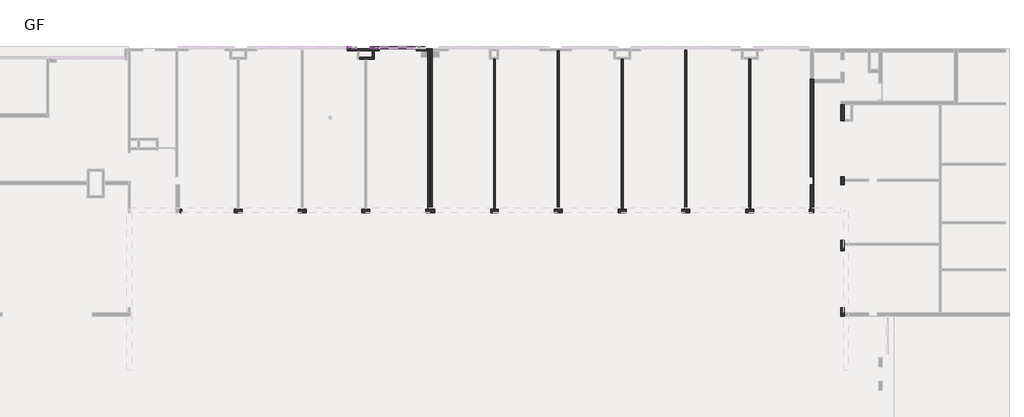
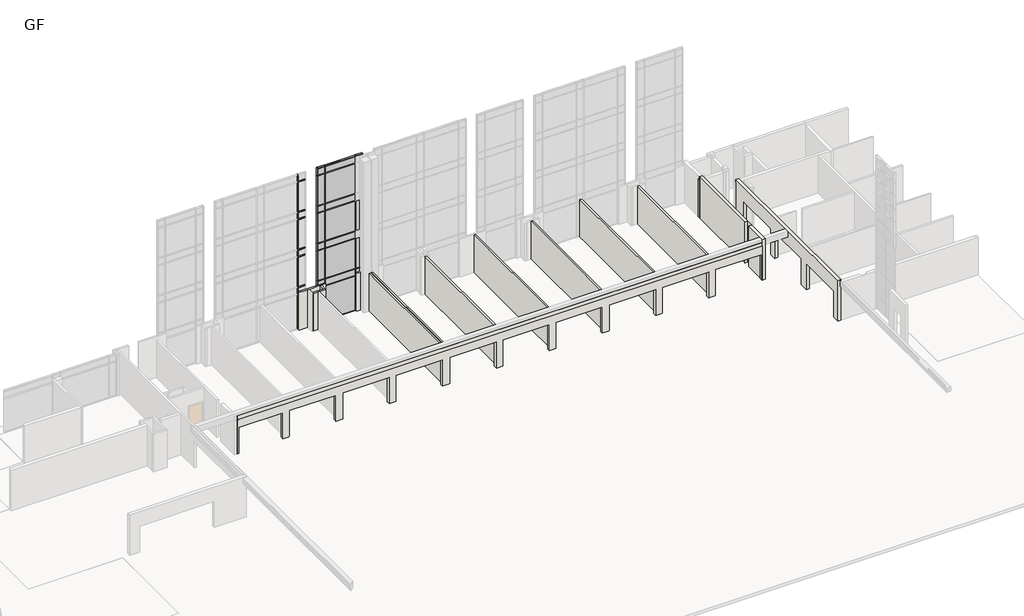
# One storey, part 18 of 23: 55 members, 20 plates, 14 walls.
"""IFC4 building model written with IfcOpenShell, lengths in millimetres."""

from ifc_helpers import new_model, si_unit, frame, origin, place, context, project, spatial, polyline, outline, extrude, faceted_brep, transform, mapped, element, save
from components import rectangular_mullion_50_x_150mm_68b3818a, rectangular_mullion_50_x_150mm_64d38db8, rectangular_mullion_50_x_150mm_f245f1eb, rectangular_mullion_50_x_150mm_d11e3bb4, rectangular_mullion_50_x_150mm_7d543e93, rectangular_mullion_50_x_150mm_9e0f1e24, rectangular_mullion_50_x_150mm_350c86c2, rectangular_mullion_50_x_150mm_5fdcfccd, rectangular_mullion_50_x_150mm_a95743fc, rectangular_mullion_50_x_150mm_dbb82e9e, rectangular_mullion_50_x_150mm_32aaa733, rectangular_mullion_50_x_150mm_9b8962c0, system_panel_glazed_f9f902e6, system_panel_glazed_bf1ddb54, system_panel_glazed_6ff5b55b, system_panel_glazed_2a2db0e8, system_panel_glazed_93ed122c, system_panel_glazed_c1421171

model = new_model("IFC4")

# Units and contexts
model_context = context("Model", 3, world=origin())
ifc_project = project(units=[si_unit("LENGTHUNIT", "METRE", prefix="MILLI")], contexts=[model_context])

# Site, building, storey
site = spatial("IfcSite", under=ifc_project)
building = spatial("IfcBuilding", under=site)
storey = spatial("IfcBuildingStorey", under=building, Name="GF", Elevation=900.0)

# Members
placement = place(None, origin())
rectangular_mullion_50_x_150mm_shape = rectangular_mullion_50_x_150mm_68b3818a(model_context)
element("IfcMember", 1, ObjectType="Rectangular Mullion : 50 x 150mm", at=placement, inside=storey, context=model_context, shape_type="MappedRepresentation", body=[
    mapped(rectangular_mullion_50_x_150mm_shape, transform((-4312.5865899, 21322.3851347, 4750.0), x_axis=(0.0, 0.0, 1.0), y_axis=(0.0, -1.0, 0.0), z_axis=(1.0, 0.0, 0.0))),
])
element("IfcMember", 2, ObjectType="Rectangular Mullion : 50 x 150mm", at=placement, inside=storey, context=model_context, shape_type="MappedRepresentation", body=[
    mapped(rectangular_mullion_50_x_150mm_shape, transform((-4312.5865899, 21322.3851347, 7550.0), x_axis=(0.0, 0.0, 1.0), y_axis=(0.0, -1.0, 0.0), z_axis=(1.0, 0.0, 0.0))),
])
element("IfcMember", 3, ObjectType="Rectangular Mullion : 50 x 150mm", at=placement, inside=storey, context=model_context, shape_type="MappedRepresentation", body=[
    mapped(rectangular_mullion_50_x_150mm_shape, transform((-4312.5865899, 21322.3851347, 8200.0), x_axis=(0.0, 0.0, 1.0), y_axis=(0.0, -1.0, 0.0), z_axis=(1.0, 0.0, 0.0))),
])
element("IfcMember", 4, ObjectType="Rectangular Mullion : 50 x 150mm", at=placement, inside=storey, context=model_context, shape_type="MappedRepresentation", body=[
    mapped(rectangular_mullion_50_x_150mm_shape, transform((-4312.5865899, 21322.3851347, 11000.0), x_axis=(0.0, 0.0, 1.0), y_axis=(0.0, -1.0, 0.0), z_axis=(1.0, 0.0, 0.0))),
])
element("IfcMember", 5, ObjectType="Rectangular Mullion : 50 x 150mm", at=placement, inside=storey, context=model_context, shape_type="MappedRepresentation", body=[
    mapped(rectangular_mullion_50_x_150mm_shape, transform((-4312.5865899, 21322.3851347, 11650.0), x_axis=(0.0, 0.0, 1.0), y_axis=(0.0, -1.0, 0.0), z_axis=(1.0, 0.0, 0.0))),
])
element("IfcMember", 6, ObjectType="Rectangular Mullion : 50 x 150mm", at=placement, inside=storey, context=model_context, shape_type="MappedRepresentation", body=[
    mapped(rectangular_mullion_50_x_150mm_shape, transform((-4312.5865899, 21322.3851347, 14450.0), x_axis=(0.0, 0.0, 1.0), y_axis=(0.0, -1.0, 0.0), z_axis=(1.0, 0.0, 0.0))),
])
rectangular_mullion_50_x_150mm_2_shape = rectangular_mullion_50_x_150mm_64d38db8(model_context)
element("IfcMember", 7, ObjectType="Rectangular Mullion : 50 x 150mm", at=placement, inside=storey, context=model_context, shape_type="MappedRepresentation", body=[
    mapped(rectangular_mullion_50_x_150mm_2_shape, transform((672.4134101, 21322.3851347, 15125.0), x_axis=(0.0, 0.0, 1.0), y_axis=(0.0, -1.0, 0.0), z_axis=(1.0, 0.0, 0.0))),
])
element("IfcMember", 8, ObjectType="Rectangular Mullion : 50 x 150mm", at=placement, inside=storey, context=model_context, shape_type="MappedRepresentation", body=[
    mapped(rectangular_mullion_50_x_150mm_2_shape, transform((-2642.5865899, 21322.3851347, 15125.0), x_axis=(0.0, 0.0, 1.0), y_axis=(0.0, -1.0, 0.0), z_axis=(1.0, 0.0, 0.0))),
])
element("IfcMember", 9, ObjectType="Rectangular Mullion : 50 x 150mm", at=placement, inside=storey, context=model_context, shape_type="MappedRepresentation", body=[
    mapped(rectangular_mullion_50_x_150mm_2_shape, transform((-3242.5865899, 21322.3851347, 900.0), x_axis=(0.0, 0.0, -1.0), y_axis=(0.0, -1.0, 0.0), z_axis=(-1.0, 0.0, 0.0))),
])
element("IfcMember", 10, ObjectType="Rectangular Mullion : 50 x 150mm", at=placement, inside=storey, context=model_context, shape_type="MappedRepresentation", body=[
    mapped(rectangular_mullion_50_x_150mm_2_shape, transform((72.4134101, 21322.3851347, 900.0), x_axis=(0.0, 0.0, -1.0), y_axis=(0.0, -1.0, 0.0), z_axis=(-1.0, 0.0, 0.0))),
])
element("IfcMember", 11, ObjectType="Rectangular Mullion : 50 x 150mm", at=placement, inside=storey, context=model_context, shape_type="MappedRepresentation", body=[
    mapped(rectangular_mullion_50_x_150mm_shape, transform((-2642.5865899, 21322.3851347, 4750.0), x_axis=(0.0, 0.0, 1.0), y_axis=(0.0, -1.0, 0.0), z_axis=(1.0, 0.0, 0.0))),
])
element("IfcMember", 12, ObjectType="Rectangular Mullion : 50 x 150mm", at=placement, inside=storey, context=model_context, shape_type="MappedRepresentation", body=[
    mapped(rectangular_mullion_50_x_150mm_shape, transform((672.4134101, 21322.3851347, 4750.0), x_axis=(0.0, 0.0, 1.0), y_axis=(0.0, -1.0, 0.0), z_axis=(1.0, 0.0, 0.0))),
])
element("IfcMember", 13, ObjectType="Rectangular Mullion : 50 x 150mm", at=placement, inside=storey, context=model_context, shape_type="MappedRepresentation", body=[
    mapped(rectangular_mullion_50_x_150mm_shape, transform((-2642.5865899, 21322.3851347, 4100.0), x_axis=(0.0, 0.0, 1.0), y_axis=(0.0, -1.0, 0.0), z_axis=(1.0, 0.0, 0.0))),
])
element("IfcMember", 14, ObjectType="Rectangular Mullion : 50 x 150mm", at=placement, inside=storey, context=model_context, shape_type="MappedRepresentation", body=[
    mapped(rectangular_mullion_50_x_150mm_shape, transform((672.4134101, 21322.3851347, 4100.0), x_axis=(0.0, 0.0, 1.0), y_axis=(0.0, -1.0, 0.0), z_axis=(1.0, 0.0, 0.0))),
])
element("IfcMember", 15, ObjectType="Rectangular Mullion : 50 x 150mm", at=placement, inside=storey, context=model_context, shape_type="MappedRepresentation", body=[
    mapped(rectangular_mullion_50_x_150mm_shape, transform((-2642.5865899, 21322.3851347, 8200.0), x_axis=(0.0, 0.0, 1.0), y_axis=(0.0, -1.0, 0.0), z_axis=(1.0, 0.0, 0.0))),
])
element("IfcMember", 16, ObjectType="Rectangular Mullion : 50 x 150mm", at=placement, inside=storey, context=model_context, shape_type="MappedRepresentation", body=[
    mapped(rectangular_mullion_50_x_150mm_shape, transform((-2642.5865899, 21322.3851347, 11650.0), x_axis=(0.0, 0.0, 1.0), y_axis=(0.0, -1.0, 0.0), z_axis=(1.0, 0.0, 0.0))),
])
element("IfcMember", 17, ObjectType="Rectangular Mullion : 50 x 150mm", at=placement, inside=storey, context=model_context, shape_type="MappedRepresentation", body=[
    mapped(rectangular_mullion_50_x_150mm_shape, transform((-2642.5865899, 21322.3851347, 7550.0), x_axis=(0.0, 0.0, 1.0), y_axis=(0.0, -1.0, 0.0), z_axis=(1.0, 0.0, 0.0))),
])
element("IfcMember", 18, ObjectType="Rectangular Mullion : 50 x 150mm", at=placement, inside=storey, context=model_context, shape_type="MappedRepresentation", body=[
    mapped(rectangular_mullion_50_x_150mm_shape, transform((-2642.5865899, 21322.3851347, 11000.0), x_axis=(0.0, 0.0, 1.0), y_axis=(0.0, -1.0, 0.0), z_axis=(1.0, 0.0, 0.0))),
])
element("IfcMember", 19, ObjectType="Rectangular Mullion : 50 x 150mm", at=placement, inside=storey, context=model_context, shape_type="MappedRepresentation", body=[
    mapped(rectangular_mullion_50_x_150mm_shape, transform((-2642.5865899, 21322.3851347, 14450.0), x_axis=(0.0, 0.0, 1.0), y_axis=(0.0, -1.0, 0.0), z_axis=(1.0, 0.0, 0.0))),
])
rectangular_mullion_50_x_150mm_3_shape = rectangular_mullion_50_x_150mm_f245f1eb(model_context)
element("IfcMember", 20, ObjectType="Rectangular Mullion : 50 x 150mm", at=placement, inside=storey, context=model_context, shape_type="MappedRepresentation", body=[
    mapped(rectangular_mullion_50_x_150mm_3_shape, transform((-4937.5865899, 21322.3851347, 900.0), x_axis=(1.0, 0.0, 0.0), y_axis=(0.0, -1.0, 0.0), z_axis=(0.0, 0.0, -1.0))),
])
rectangular_mullion_50_x_150mm_4_shape = rectangular_mullion_50_x_150mm_d11e3bb4(model_context)
element("IfcMember", 21, ObjectType="Rectangular Mullion : 50 x 150mm", at=placement, inside=storey, context=model_context, shape_type="MappedRepresentation", body=[
    mapped(rectangular_mullion_50_x_150mm_4_shape, transform((-4937.5865899, 21322.3851347, 4750.0), x_axis=(1.0, 0.0, 0.0), y_axis=(0.0, -1.0, 0.0), z_axis=(0.0, 0.0, -1.0))),
])
element("IfcMember", 22, ObjectType="Rectangular Mullion : 50 x 150mm", at=placement, inside=storey, context=model_context, shape_type="MappedRepresentation", body=[
    mapped(rectangular_mullion_50_x_150mm_4_shape, transform((-4937.5865899, 21322.3851347, 8200.0), x_axis=(1.0, 0.0, 0.0), y_axis=(0.0, -1.0, 0.0), z_axis=(0.0, 0.0, -1.0))),
])
element("IfcMember", 23, ObjectType="Rectangular Mullion : 50 x 150mm", at=placement, inside=storey, context=model_context, shape_type="MappedRepresentation", body=[
    mapped(rectangular_mullion_50_x_150mm_4_shape, transform((-4937.5865899, 21322.3851347, 11650.0), x_axis=(1.0, 0.0, 0.0), y_axis=(0.0, -1.0, 0.0), z_axis=(0.0, 0.0, -1.0))),
])
rectangular_mullion_50_x_150mm_5_shape = rectangular_mullion_50_x_150mm_7d543e93(model_context)
element("IfcMember", 24, ObjectType="Rectangular Mullion : 50 x 150mm", at=placement, inside=storey, context=model_context, shape_type="MappedRepresentation", body=[
    mapped(rectangular_mullion_50_x_150mm_5_shape, transform((-4937.5865899, 21322.3851347, 4100.0), x_axis=(1.0, 0.0, 0.0), y_axis=(0.0, -1.0, 0.0), z_axis=(0.0, 0.0, -1.0))),
])
element("IfcMember", 25, ObjectType="Rectangular Mullion : 50 x 150mm", at=placement, inside=storey, context=model_context, shape_type="MappedRepresentation", body=[
    mapped(rectangular_mullion_50_x_150mm_5_shape, transform((-4937.5865899, 21322.3851347, 7550.0), x_axis=(1.0, 0.0, 0.0), y_axis=(0.0, -1.0, 0.0), z_axis=(0.0, 0.0, -1.0))),
])
element("IfcMember", 26, ObjectType="Rectangular Mullion : 50 x 150mm", at=placement, inside=storey, context=model_context, shape_type="MappedRepresentation", body=[
    mapped(rectangular_mullion_50_x_150mm_5_shape, transform((-4937.5865899, 21322.3851347, 11000.0), x_axis=(1.0, 0.0, 0.0), y_axis=(0.0, -1.0, 0.0), z_axis=(0.0, 0.0, -1.0))),
])
rectangular_mullion_50_x_150mm_6_shape = rectangular_mullion_50_x_150mm_9e0f1e24(model_context)
element("IfcMember", 27, ObjectType="Rectangular Mullion : 50 x 150mm", at=placement, inside=storey, context=model_context, shape_type="MappedRepresentation", body=[
    mapped(rectangular_mullion_50_x_150mm_6_shape, transform((-4937.5865899, 21322.3851347, 14450.0), x_axis=(1.0, 0.0, 0.0), y_axis=(0.0, -1.0, 0.0), z_axis=(0.0, 0.0, -1.0))),
])
rectangular_mullion_50_x_150mm_7_shape = rectangular_mullion_50_x_150mm_350c86c2(model_context)
element("IfcMember", 28, ObjectType="Rectangular Mullion : 50 x 150mm", at=placement, inside=storey, context=model_context, shape_type="MappedRepresentation", body=[
    mapped(rectangular_mullion_50_x_150mm_7_shape, transform((-2592.5865899, 21322.3851347, 900.0), x_axis=(0.0, 0.0, -1.0), y_axis=(0.0, -1.0, 0.0), z_axis=(-1.0, 0.0, 0.0))),
])
element("IfcMember", 29, ObjectType="Rectangular Mullion : 50 x 150mm", at=placement, inside=storey, context=model_context, shape_type="MappedRepresentation", body=[
    mapped(rectangular_mullion_50_x_150mm_3_shape, transform((-2617.5865899, 21322.3851347, 900.0), x_axis=(1.0, 0.0, 0.0), y_axis=(0.0, -1.0, 0.0), z_axis=(0.0, 0.0, -1.0))),
])
element("IfcMember", 30, ObjectType="Rectangular Mullion : 50 x 150mm", at=placement, inside=storey, context=model_context, shape_type="MappedRepresentation", body=[
    mapped(rectangular_mullion_50_x_150mm_3_shape, transform((47.4134101, 21322.3851347, 900.0), x_axis=(1.0, 0.0, 0.0), y_axis=(0.0, -1.0, 0.0), z_axis=(0.0, 0.0, -1.0))),
])
element("IfcMember", 31, ObjectType="Rectangular Mullion : 50 x 150mm", at=placement, inside=storey, context=model_context, shape_type="MappedRepresentation", body=[
    mapped(rectangular_mullion_50_x_150mm_7_shape, transform((22.4134101, 21322.3851347, 15125.0), x_axis=(0.0, 0.0, 1.0), y_axis=(0.0, -1.0, 0.0), z_axis=(1.0, 0.0, 0.0))),
])
rectangular_mullion_50_x_150mm_8_shape = rectangular_mullion_50_x_150mm_5fdcfccd(model_context)
element("IfcMember", 32, ObjectType="Rectangular Mullion : 50 x 150mm", at=placement, inside=storey, context=model_context, shape_type="MappedRepresentation", body=[
    mapped(rectangular_mullion_50_x_150mm_8_shape, transform((22.4134101, 21322.3851347, 4750.0), x_axis=(0.0, 0.0, 1.0), y_axis=(0.0, -1.0, 0.0), z_axis=(1.0, 0.0, 0.0))),
])
element("IfcMember", 33, ObjectType="Rectangular Mullion : 50 x 150mm", at=placement, inside=storey, context=model_context, shape_type="MappedRepresentation", body=[
    mapped(rectangular_mullion_50_x_150mm_8_shape, transform((22.4134101, 21322.3851347, 4100.0), x_axis=(0.0, 0.0, 1.0), y_axis=(0.0, -1.0, 0.0), z_axis=(1.0, 0.0, 0.0))),
])
element("IfcMember", 34, ObjectType="Rectangular Mullion : 50 x 150mm", at=placement, inside=storey, context=model_context, shape_type="MappedRepresentation", body=[
    mapped(rectangular_mullion_50_x_150mm_8_shape, transform((22.4134101, 21322.3851347, 8200.0), x_axis=(0.0, 0.0, 1.0), y_axis=(0.0, -1.0, 0.0), z_axis=(1.0, 0.0, 0.0))),
])
element("IfcMember", 35, ObjectType="Rectangular Mullion : 50 x 150mm", at=placement, inside=storey, context=model_context, shape_type="MappedRepresentation", body=[
    mapped(rectangular_mullion_50_x_150mm_4_shape, transform((-2617.5865899, 21322.3851347, 4750.0), x_axis=(1.0, 0.0, 0.0), y_axis=(0.0, -1.0, 0.0), z_axis=(0.0, 0.0, -1.0))),
])
element("IfcMember", 36, ObjectType="Rectangular Mullion : 50 x 150mm", at=placement, inside=storey, context=model_context, shape_type="MappedRepresentation", body=[
    mapped(rectangular_mullion_50_x_150mm_4_shape, transform((47.4134101, 21322.3851347, 4750.0), x_axis=(1.0, 0.0, 0.0), y_axis=(0.0, -1.0, 0.0), z_axis=(0.0, 0.0, -1.0))),
])
element("IfcMember", 37, ObjectType="Rectangular Mullion : 50 x 150mm", at=placement, inside=storey, context=model_context, shape_type="MappedRepresentation", body=[
    mapped(rectangular_mullion_50_x_150mm_4_shape, transform((-2617.5865899, 21322.3851347, 8200.0), x_axis=(1.0, 0.0, 0.0), y_axis=(0.0, -1.0, 0.0), z_axis=(0.0, 0.0, -1.0))),
])
element("IfcMember", 38, ObjectType="Rectangular Mullion : 50 x 150mm", at=placement, inside=storey, context=model_context, shape_type="MappedRepresentation", body=[
    mapped(rectangular_mullion_50_x_150mm_4_shape, transform((-2617.5865899, 21322.3851347, 11650.0), x_axis=(1.0, 0.0, 0.0), y_axis=(0.0, -1.0, 0.0), z_axis=(0.0, 0.0, -1.0))),
])
element("IfcMember", 39, ObjectType="Rectangular Mullion : 50 x 150mm", at=placement, inside=storey, context=model_context, shape_type="MappedRepresentation", body=[
    mapped(rectangular_mullion_50_x_150mm_5_shape, transform((-2617.5865899, 21322.3851347, 4100.0), x_axis=(1.0, 0.0, 0.0), y_axis=(0.0, -1.0, 0.0), z_axis=(0.0, 0.0, -1.0))),
])
element("IfcMember", 40, ObjectType="Rectangular Mullion : 50 x 150mm", at=placement, inside=storey, context=model_context, shape_type="MappedRepresentation", body=[
    mapped(rectangular_mullion_50_x_150mm_5_shape, transform((47.4134101, 21322.3851347, 4100.0), x_axis=(1.0, 0.0, 0.0), y_axis=(0.0, -1.0, 0.0), z_axis=(0.0, 0.0, -1.0))),
])
element("IfcMember", 41, ObjectType="Rectangular Mullion : 50 x 150mm", at=placement, inside=storey, context=model_context, shape_type="MappedRepresentation", body=[
    mapped(rectangular_mullion_50_x_150mm_5_shape, transform((-2617.5865899, 21322.3851347, 7550.0), x_axis=(1.0, 0.0, 0.0), y_axis=(0.0, -1.0, 0.0), z_axis=(0.0, 0.0, -1.0))),
])
element("IfcMember", 42, ObjectType="Rectangular Mullion : 50 x 150mm", at=placement, inside=storey, context=model_context, shape_type="MappedRepresentation", body=[
    mapped(rectangular_mullion_50_x_150mm_5_shape, transform((-2617.5865899, 21322.3851347, 11000.0), x_axis=(1.0, 0.0, 0.0), y_axis=(0.0, -1.0, 0.0), z_axis=(0.0, 0.0, -1.0))),
])
element("IfcMember", 43, ObjectType="Rectangular Mullion : 50 x 150mm", at=placement, inside=storey, context=model_context, shape_type="MappedRepresentation", body=[
    mapped(rectangular_mullion_50_x_150mm_6_shape, transform((-2617.5865899, 21322.3851347, 14450.0), x_axis=(1.0, 0.0, 0.0), y_axis=(0.0, -1.0, 0.0), z_axis=(0.0, 0.0, -1.0))),
])
rectangular_mullion_50_x_150mm_9_shape = rectangular_mullion_50_x_150mm_a95743fc(model_context)
element("IfcMember", 44, ObjectType="Rectangular Mullion : 50 x 150mm", at=placement, inside=storey, context=model_context, shape_type="MappedRepresentation", body=[
    mapped(rectangular_mullion_50_x_150mm_9_shape, transform((722.4134101, 21322.3851347, 900.0), x_axis=(1.0, 0.0, 0.0), y_axis=(0.0, -1.0, 0.0), z_axis=(0.0, 0.0, -1.0))),
])
rectangular_mullion_50_x_150mm_10_shape = rectangular_mullion_50_x_150mm_dbb82e9e(model_context)
element("IfcMember", 45, ObjectType="Rectangular Mullion : 50 x 150mm", at=placement, inside=storey, context=model_context, shape_type="MappedRepresentation", body=[
    mapped(rectangular_mullion_50_x_150mm_10_shape, transform((-3292.5865899, 21322.3851347, 15125.0), x_axis=(-1.0, 0.0, 0.0), y_axis=(0.0, -1.0, 0.0), z_axis=(0.0, 0.0, 1.0))),
])
rectangular_mullion_50_x_150mm_11_shape = rectangular_mullion_50_x_150mm_32aaa733(model_context)
element("IfcMember", 46, ObjectType="Rectangular Mullion : 50 x 150mm", at=placement, inside=storey, context=model_context, shape_type="MappedRepresentation", body=[
    mapped(rectangular_mullion_50_x_150mm_11_shape, transform((722.4134101, 21322.3851347, 4750.0), x_axis=(1.0, 0.0, 0.0), y_axis=(0.0, -1.0, 0.0), z_axis=(0.0, 0.0, -1.0))),
])
element("IfcMember", 47, ObjectType="Rectangular Mullion : 50 x 150mm", at=placement, inside=storey, context=model_context, shape_type="MappedRepresentation", body=[
    mapped(rectangular_mullion_50_x_150mm_11_shape, transform((722.4134101, 21322.3851347, 8200.0), x_axis=(1.0, 0.0, 0.0), y_axis=(0.0, -1.0, 0.0), z_axis=(0.0, 0.0, -1.0))),
])
rectangular_mullion_50_x_150mm_12_shape = rectangular_mullion_50_x_150mm_9b8962c0(model_context)
element("IfcMember", 48, ObjectType="Rectangular Mullion : 50 x 150mm", at=placement, inside=storey, context=model_context, shape_type="MappedRepresentation", body=[
    mapped(rectangular_mullion_50_x_150mm_12_shape, transform((-3292.5865899, 21322.3851347, 4750.0), x_axis=(-1.0, 0.0, 0.0), y_axis=(0.0, -1.0, 0.0), z_axis=(0.0, 0.0, 1.0))),
])
element("IfcMember", 49, ObjectType="Rectangular Mullion : 50 x 150mm", at=placement, inside=storey, context=model_context, shape_type="MappedRepresentation", body=[
    mapped(rectangular_mullion_50_x_150mm_12_shape, transform((-3292.5865899, 21322.3851347, 8200.0), x_axis=(-1.0, 0.0, 0.0), y_axis=(0.0, -1.0, 0.0), z_axis=(0.0, 0.0, 1.0))),
])
element("IfcMember", 50, ObjectType="Rectangular Mullion : 50 x 150mm", at=placement, inside=storey, context=model_context, shape_type="MappedRepresentation", body=[
    mapped(rectangular_mullion_50_x_150mm_12_shape, transform((-3292.5865899, 21322.3851347, 11650.0), x_axis=(-1.0, 0.0, 0.0), y_axis=(0.0, -1.0, 0.0), z_axis=(0.0, 0.0, 1.0))),
])
element("IfcMember", 51, ObjectType="Rectangular Mullion : 50 x 150mm", at=placement, inside=storey, context=model_context, shape_type="MappedRepresentation", body=[
    mapped(rectangular_mullion_50_x_150mm_12_shape, transform((722.4134101, 21322.3851347, 4100.0), x_axis=(1.0, 0.0, 0.0), y_axis=(0.0, -1.0, 0.0), z_axis=(0.0, 0.0, -1.0))),
])
element("IfcMember", 52, ObjectType="Rectangular Mullion : 50 x 150mm", at=placement, inside=storey, context=model_context, shape_type="MappedRepresentation", body=[
    mapped(rectangular_mullion_50_x_150mm_9_shape, transform((-3292.5865899, 21322.3851347, 4100.0), x_axis=(-1.0, 0.0, 0.0), y_axis=(0.0, -1.0, 0.0), z_axis=(0.0, 0.0, 1.0))),
])
element("IfcMember", 53, ObjectType="Rectangular Mullion : 50 x 150mm", at=placement, inside=storey, context=model_context, shape_type="MappedRepresentation", body=[
    mapped(rectangular_mullion_50_x_150mm_11_shape, transform((-3292.5865899, 21322.3851347, 7550.0), x_axis=(-1.0, 0.0, 0.0), y_axis=(0.0, -1.0, 0.0), z_axis=(0.0, 0.0, 1.0))),
])
element("IfcMember", 54, ObjectType="Rectangular Mullion : 50 x 150mm", at=placement, inside=storey, context=model_context, shape_type="MappedRepresentation", body=[
    mapped(rectangular_mullion_50_x_150mm_11_shape, transform((-3292.5865899, 21322.3851347, 11000.0), x_axis=(-1.0, 0.0, 0.0), y_axis=(0.0, -1.0, 0.0), z_axis=(0.0, 0.0, 1.0))),
])
element("IfcMember", 55, ObjectType="Rectangular Mullion : 50 x 150mm", at=placement, inside=storey, context=model_context, shape_type="MappedRepresentation", body=[
    mapped(rectangular_mullion_50_x_150mm_11_shape, transform((-3292.5865899, 21322.3851347, 14450.0), x_axis=(-1.0, 0.0, 0.0), y_axis=(0.0, -1.0, 0.0), z_axis=(0.0, 0.0, 1.0))),
])

# Plates
system_panel_glazed_shape = system_panel_glazed_f9f902e6(model_context)
element("IfcPlate", 56, ObjectType="System Panel : Glazed", at=placement, inside=storey, context=model_context, shape_type="MappedRepresentation", body=[
    mapped(system_panel_glazed_shape, transform((-2942.5865899, 21322.3851347, 950.0), x_axis=(1.0, 0.0, 0.0), y_axis=(0.0, 1.0, 0.0), z_axis=(0.0, 0.0, 1.0))),
])
element("IfcPlate", 57, ObjectType="System Panel : Glazed", at=placement, inside=storey, context=model_context, shape_type="MappedRepresentation", body=[
    mapped(system_panel_glazed_shape, transform((372.4134101, 21322.3851347, 950.0), x_axis=(1.0, 0.0, 0.0), y_axis=(0.0, 1.0, 0.0), z_axis=(0.0, 0.0, 1.0))),
])
system_panel_glazed_2_shape = system_panel_glazed_bf1ddb54(model_context)
element("IfcPlate", 58, ObjectType="System Panel : Glazed", at=placement, inside=storey, context=model_context, shape_type="MappedRepresentation", body=[
    mapped(system_panel_glazed_2_shape, transform((-1285.0865899, 21322.3851347, 950.0), x_axis=(1.0, 0.0, 0.0), y_axis=(0.0, 1.0, 0.0), z_axis=(0.0, 0.0, 1.0))),
])
system_panel_glazed_3_shape = system_panel_glazed_6ff5b55b(model_context)
element("IfcPlate", 59, ObjectType="System Panel : Glazed", at=placement, inside=storey, context=model_context, shape_type="MappedRepresentation", body=[
    mapped(system_panel_glazed_3_shape, transform((-2942.5865899, 21322.3851347, 4775.0), x_axis=(1.0, 0.0, 0.0), y_axis=(0.0, 1.0, 0.0), z_axis=(0.0, 0.0, 1.0))),
])
element("IfcPlate", 60, ObjectType="System Panel : Glazed", at=placement, inside=storey, context=model_context, shape_type="MappedRepresentation", body=[
    mapped(system_panel_glazed_3_shape, transform((372.4134101, 21322.3851347, 4775.0), x_axis=(1.0, 0.0, 0.0), y_axis=(0.0, 1.0, 0.0), z_axis=(0.0, 0.0, 1.0))),
])
element("IfcPlate", 61, ObjectType="System Panel : Glazed", at=placement, inside=storey, context=model_context, shape_type="MappedRepresentation", body=[
    mapped(system_panel_glazed_3_shape, transform((-2942.5865899, 21322.3851347, 8225.0), x_axis=(1.0, 0.0, 0.0), y_axis=(0.0, 1.0, 0.0), z_axis=(0.0, 0.0, 1.0))),
])
element("IfcPlate", 62, ObjectType="System Panel : Glazed", at=placement, inside=storey, context=model_context, shape_type="MappedRepresentation", body=[
    mapped(system_panel_glazed_3_shape, transform((372.4134101, 21322.3851347, 8225.0), x_axis=(1.0, 0.0, 0.0), y_axis=(0.0, 1.0, 0.0), z_axis=(0.0, 0.0, 1.0))),
])
element("IfcPlate", 63, ObjectType="System Panel : Glazed", at=placement, inside=storey, context=model_context, shape_type="MappedRepresentation", body=[
    mapped(system_panel_glazed_3_shape, transform((-2942.5865899, 21322.3851347, 11675.0), x_axis=(1.0, 0.0, 0.0), y_axis=(0.0, 1.0, 0.0), z_axis=(0.0, 0.0, 1.0))),
])
system_panel_glazed_4_shape = system_panel_glazed_2a2db0e8(model_context)
element("IfcPlate", 64, ObjectType="System Panel : Glazed", at=placement, inside=storey, context=model_context, shape_type="MappedRepresentation", body=[
    mapped(system_panel_glazed_4_shape, transform((-1285.0865899, 21322.3851347, 4775.0), x_axis=(1.0, 0.0, 0.0), y_axis=(0.0, 1.0, 0.0), z_axis=(0.0, 0.0, 1.0))),
])
element("IfcPlate", 65, ObjectType="System Panel : Glazed", at=placement, inside=storey, context=model_context, shape_type="MappedRepresentation", body=[
    mapped(system_panel_glazed_4_shape, transform((-1285.0865899, 21322.3851347, 8225.0), x_axis=(1.0, 0.0, 0.0), y_axis=(0.0, 1.0, 0.0), z_axis=(0.0, 0.0, 1.0))),
])
element("IfcPlate", 66, ObjectType="System Panel : Glazed", at=placement, inside=storey, context=model_context, shape_type="MappedRepresentation", body=[
    mapped(system_panel_glazed_4_shape, transform((-1285.0865899, 21322.3851347, 11675.0), x_axis=(1.0, 0.0, 0.0), y_axis=(0.0, 1.0, 0.0), z_axis=(0.0, 0.0, 1.0))),
])
system_panel_glazed_5_shape = system_panel_glazed_93ed122c(model_context)
element("IfcPlate", 67, ObjectType="System Panel : Glazed", at=placement, inside=storey, context=model_context, shape_type="MappedRepresentation", body=[
    mapped(system_panel_glazed_5_shape, transform((-2942.5865899, 21322.3851347, 4125.0), x_axis=(1.0, 0.0, 0.0), y_axis=(0.0, 1.0, 0.0), z_axis=(0.0, 0.0, 1.0))),
])
element("IfcPlate", 68, ObjectType="System Panel : Glazed", at=placement, inside=storey, context=model_context, shape_type="MappedRepresentation", body=[
    mapped(system_panel_glazed_5_shape, transform((372.4134101, 21322.3851347, 4125.0), x_axis=(1.0, 0.0, 0.0), y_axis=(0.0, 1.0, 0.0), z_axis=(0.0, 0.0, 1.0))),
])
element("IfcPlate", 69, ObjectType="System Panel : Glazed", at=placement, inside=storey, context=model_context, shape_type="MappedRepresentation", body=[
    mapped(system_panel_glazed_5_shape, transform((-2942.5865899, 21322.3851347, 7575.0), x_axis=(1.0, 0.0, 0.0), y_axis=(0.0, 1.0, 0.0), z_axis=(0.0, 0.0, 1.0))),
])
element("IfcPlate", 70, ObjectType="System Panel : Glazed", at=placement, inside=storey, context=model_context, shape_type="MappedRepresentation", body=[
    mapped(system_panel_glazed_5_shape, transform((-2942.5865899, 21322.3851347, 11025.0), x_axis=(1.0, 0.0, 0.0), y_axis=(0.0, 1.0, 0.0), z_axis=(0.0, 0.0, 1.0))),
])
element("IfcPlate", 71, ObjectType="System Panel : Glazed", at=placement, inside=storey, context=model_context, shape_type="MappedRepresentation", body=[
    mapped(system_panel_glazed_5_shape, transform((-2942.5865899, 21322.3851347, 14475.0), x_axis=(1.0, 0.0, 0.0), y_axis=(0.0, 1.0, 0.0), z_axis=(0.0, 0.0, 1.0))),
])
system_panel_glazed_6_shape = system_panel_glazed_c1421171(model_context)
element("IfcPlate", 72, ObjectType="System Panel : Glazed", at=placement, inside=storey, context=model_context, shape_type="MappedRepresentation", body=[
    mapped(system_panel_glazed_6_shape, transform((-1285.0865899, 21322.3851347, 4125.0), x_axis=(1.0, 0.0, 0.0), y_axis=(0.0, 1.0, 0.0), z_axis=(0.0, 0.0, 1.0))),
])
element("IfcPlate", 73, ObjectType="System Panel : Glazed", at=placement, inside=storey, context=model_context, shape_type="MappedRepresentation", body=[
    mapped(system_panel_glazed_6_shape, transform((-1285.0865899, 21322.3851347, 7575.0), x_axis=(1.0, 0.0, 0.0), y_axis=(0.0, 1.0, 0.0), z_axis=(0.0, 0.0, 1.0))),
])
element("IfcPlate", 74, ObjectType="System Panel : Glazed", at=placement, inside=storey, context=model_context, shape_type="MappedRepresentation", body=[
    mapped(system_panel_glazed_6_shape, transform((-1285.0865899, 21322.3851347, 11025.0), x_axis=(1.0, 0.0, 0.0), y_axis=(0.0, 1.0, 0.0), z_axis=(0.0, 0.0, 1.0))),
])
element("IfcPlate", 75, ObjectType="System Panel : Glazed", at=placement, inside=storey, context=model_context, shape_type="MappedRepresentation", body=[
    mapped(system_panel_glazed_6_shape, transform((-1285.0865899, 21322.3851347, 14475.0), x_axis=(1.0, 0.0, 0.0), y_axis=(0.0, 1.0, 0.0), z_axis=(0.0, 0.0, 1.0))),
])

# Walls
element("IfcWall", 76, ObjectType="wall-115", at=placement, inside=storey, context=model_context, shape_type="Brep", body=[
    faceted_brep([(-4065.5865899, 20487.3851347, 900.0), (-3665.0865899, 20487.3851347, 900.0), (-3523.0865899, 20487.3851347, 900.0), (-2977.5865899, 20487.3851347, 900.0), (-2977.5865899, 20487.3851347, 4375.0), (-3523.0865899, 20487.3851347, 4375.0), (-3665.0865899, 20487.3851347, 4375.0), (-4065.5865899, 20487.3851347, 4375.0), (-4065.5865899, 20629.3851347, 900.0), (-4065.5865899, 20629.3851347, 4375.0), (-3119.5865899, 20629.3851347, 4375.0), (-2977.5865899, 20629.3851347, 4375.0), (-2977.5865899, 20629.3851347, 900.0), (-3119.5865899, 20629.3851347, 900.0)], [[[0, 1, 2, 3, 4, 5, 6, 7]], [[8, 9, 10, 11, 12, 13]], [[3, 2, 1, 0, 8, 13, 12]], [[4, 3, 12, 11]], [[0, 7, 9, 8]], [[7, 6, 5, 4, 11, 10, 9]]]),
])
element("IfcWall", 77, ObjectType="wall-115", at=placement, inside=storey, context=model_context, shape_type="SweptSolid", body=[
    extrude(outline(polyline([(-2977.5865899, 21117.3851347), (-2977.5865899, 20629.3851347), (-3119.5865899, 20629.3851347), (-3119.5865899, 21117.3851347), (-2977.5865899, 21117.3851347)])), frame((0.0, 0.0, 900.0), z_axis=(0.0, 0.0, 1.0), x_axis=(1.0, 0.0, 0.0)), (0.0, 0.0, 1.0), 3475.0),
])
element("IfcWall", 78, ObjectType="wall-115", at=placement, inside=storey, context=model_context, shape_type="SweptSolid", body=[
    extrude(outline(polyline([(24099.9134101, 9642.3851347), (24099.9134101, 20487.3851347), (24241.9134101, 20487.3851347), (24241.9134101, 9642.3851347), (24099.9134101, 9642.3851347)])), frame((0.0, 0.0, 900.0), z_axis=(0.0, 0.0, 1.0), x_axis=(1.0, 0.0, 0.0)), (0.0, 0.0, 1.0), 3475.0),
])
element("IfcWall", 79, ObjectType="wall-115", at=placement, inside=storey, context=model_context, shape_type="SweptSolid", body=[
    extrude(outline(polyline([(19484.9134101, 9642.3851347), (19484.9134101, 21132.3851347), (19626.9134101, 21132.3851347), (19626.9134101, 9642.3851347), (19484.9134101, 9642.3851347)])), frame((0.0, 0.0, 900.0), z_axis=(0.0, 0.0, 1.0), x_axis=(1.0, 0.0, 0.0)), (0.0, 0.0, 1.0), 3475.0),
])
element("IfcWall", 80, ObjectType="wall-115", at=placement, inside=storey, context=model_context, shape_type="SweptSolid", body=[
    extrude(outline(polyline([(14869.9134101, 9642.3851347), (14869.9134101, 20487.3851347), (15011.9134101, 20487.3851347), (15011.9134101, 9642.3851347), (14869.9134101, 9642.3851347)])), frame((0.0, 0.0, 900.0), z_axis=(0.0, 0.0, 1.0), x_axis=(1.0, 0.0, 0.0)), (0.0, 0.0, 1.0), 3475.0),
])
element("IfcWall", 81, ObjectType="wall-115", at=placement, inside=storey, context=model_context, shape_type="SweptSolid", body=[
    extrude(outline(polyline([(10254.9134101, 9642.3851347), (10254.9134101, 21117.3851347), (10396.9134101, 21117.3851347), (10396.9134101, 9642.3851347), (10254.9134101, 9642.3851347)])), frame((0.0, 0.0, 900.0), z_axis=(0.0, 0.0, 1.0), x_axis=(1.0, 0.0, 0.0)), (0.0, 0.0, 1.0), 3475.0),
])
element("IfcWall", 82, ObjectType="wall-115", at=placement, inside=storey, context=model_context, shape_type="SweptSolid", body=[
    extrude(outline(polyline([(5639.9134101, 9642.3851347), (5639.9134101, 20487.3851347), (5781.9134101, 20487.3851347), (5781.9134101, 9642.3851347), (5639.9134101, 9642.3851347)])), frame((0.0, 0.0, 900.0), z_axis=(0.0, 0.0, 1.0), x_axis=(1.0, 0.0, 0.0)), (0.0, 0.0, 1.0), 3475.0),
])
element("IfcWall", 83, ObjectType="wall-115", at=placement, inside=storey, context=model_context, shape_type="Brep", body=[
    faceted_brep([(1082.4134101, 21259.3851347, 900.0), (1082.4134101, 9642.3851347, 900.0), (1082.4134101, 9642.3851347, 4375.0), (1082.4134101, 21259.3851347, 4375.0), (1224.4134101, 21259.3851347, 900.0), (1224.4134101, 21259.3851347, 4375.0), (1224.4134101, 21117.3851347, 4375.0), (1224.4134101, 9642.3851347, 4375.0), (1224.4134101, 9642.3851347, 900.0), (1224.4134101, 21117.3851347, 900.0)], [[[0, 1, 2, 3]], [[4, 5, 6, 7, 8, 9]], [[1, 0, 4, 9, 8]], [[0, 3, 5, 4]], [[2, 1, 8, 7]], [[3, 2, 7, 6, 5]]]),
])
element("IfcWall", 84, ObjectType="wall-115", at=placement, inside=storey, context=model_context, shape_type="Brep", body=[
    faceted_brep([(892.4134101, 21259.3851347, 900.0), (892.4134101, 21117.3851347, 900.0), (892.4134101, 9642.3851347, 900.0), (892.4134101, 9642.3851347, 4375.0), (892.4134101, 21117.3851347, 4375.0), (892.4134101, 21259.3851347, 4375.0), (1034.4134101, 21259.3851347, 900.0), (1034.4134101, 21259.3851347, 4375.0), (1034.4134101, 9642.3851347, 4375.0), (1034.4134101, 9642.3851347, 900.0)], [[[0, 1, 2, 3, 4, 5]], [[6, 7, 8, 9]], [[2, 1, 0, 6, 9]], [[0, 5, 7, 6]], [[3, 2, 9, 8]], [[5, 4, 3, 8, 7]]]),
])
element("IfcWall", 85, ObjectType="wall-115", at=placement, inside=storey, context=model_context, shape_type="Brep", body=[
    faceted_brep([(-4937.5865899, 21117.3851347, 900.0), (-4207.5865899, 21117.3851347, 900.0), (-4065.5865899, 21117.3851347, 900.0), (-3119.5865899, 21117.3851347, 900.0), (-2977.5865899, 21117.3851347, 900.0), (-2617.5865899, 21117.3851347, 900.0), (-2617.5865899, 21117.3851347, 4375.0), (-2977.5865899, 21117.3851347, 4375.0), (-3119.5865899, 21117.3851347, 4375.0), (-4065.5865899, 21117.3851347, 4375.0), (-4207.5865899, 21117.3851347, 4375.0), (-4937.5865899, 21117.3851347, 4375.0), (-4937.5865899, 21259.3851347, 900.0), (-4937.5865899, 21259.3851347, 4375.0), (-2617.5865899, 21259.3851347, 4375.0), (-2617.5865899, 21259.3851347, 900.0)], [[[0, 1, 2, 3, 4, 5, 6, 7, 8, 9, 10, 11]], [[12, 13, 14, 15]], [[5, 4, 3, 2, 1, 0, 12, 15]], [[6, 5, 15, 14]], [[0, 11, 13, 12]], [[11, 10, 9, 8, 7, 6, 14, 13]]]),
])
element("IfcWall", 86, ObjectType="wall-115", at=placement, inside=storey, context=model_context, shape_type="SweptSolid", body=[
    extrude(outline(polyline([(892.4134101, 21117.3851347), (47.4134101, 21117.3851347), (47.4134101, 21259.3851347), (892.4134101, 21259.3851347), (892.4134101, 21117.3851347)])), frame((0.0, 0.0, 900.0), z_axis=(0.0, 0.0, 1.0), x_axis=(1.0, 0.0, 0.0)), (0.0, 0.0, 1.0), 3475.0),
])
element("IfcWall", 87, ObjectType="wall-230", at=placement, inside=storey, context=model_context, shape_type="Brep", body=[
    faceted_brep([(28799.4134101, 9385.3851347, 900.0), (28799.4134101, 18772.3851347, 900.0), (28799.4134101, 19029.3851347, 900.0), (28799.4134101, 19029.3851347, 4375.0), (28799.4134101, 18900.8851347, 4375.0), (28799.4134101, 18900.8851347, 4650.0), (28799.4134101, 9385.3851347, 4650.0), (28542.4134101, 9385.3851347, 900.0), (28542.4134101, 9385.3851347, 4025.0), (28542.4134101, 9385.3851347, 4650.0), (28542.4134101, 11397.3851347, 4650.0), (28542.4134101, 11397.3851347, 900.0), (28542.4134101, 9642.3851347, 900.0), (28542.4134101, 18900.8851347, 4650.0), (28542.4134101, 18900.8851347, 4375.0), (28542.4134101, 19029.3851347, 4375.0), (28542.4134101, 19029.3851347, 900.0), (28542.4134101, 11997.3851347, 900.0), (28542.4134101, 11997.3851347, 4650.0), (28787.4134101, 11397.3851347, 900.0), (28787.4134101, 11997.3851347, 900.0), (28545.4134101, 19029.3851347, 900.0), (28545.4134101, 18900.8851347, 4650.0), (28787.4134101, 11997.3851347, 4650.0), (28787.4134101, 11397.3851347, 4650.0), (28545.4134101, 18900.8851347, 4375.0), (28545.4134101, 19029.3851347, 4375.0)], [[[0, 1, 2, 3, 4, 5, 6]], [[7, 8, 9, 10, 11, 12]], [[13, 14, 15, 16, 17, 18]], [[2, 1, 0, 7, 12, 11, 19, 20, 17, 16, 21]], [[6, 5, 22, 13, 18, 23, 24, 10, 9]], [[0, 6, 9, 8, 7]], [[13, 22, 5, 4, 25, 14]], [[14, 25, 4, 3, 26, 15]], [[3, 2, 21, 16, 15, 26]], [[24, 19, 11, 10]], [[19, 24, 23, 20]], [[20, 23, 18, 17]]]),
])
element("IfcWall", 88, ObjectType="wall-230", at=placement, inside=storey, context=model_context, shape_type="Brep", body=[
    faceted_brep([(30775.4134101, 11997.3851347, 3300.0), (30775.4134101, 11997.3851347, 900.0), (30775.4134101, 11404.8851347, 900.0), (30775.4134101, 11404.8851347, 3300.0), (30775.4134101, 7404.8851347, 3300.0), (30775.4134101, 7404.8851347, 900.0), (30775.4134101, 6647.3851347, 900.0), (30775.4134101, 6647.3851347, 3300.0), (30775.4134101, 2497.3851347, 3300.0), (30775.4134101, 2497.3851347, 900.0), (30775.4134101, 1885.3851347, 900.0), (30775.4134101, 1885.3851347, 4650.0), (30775.4134101, 17207.3851348, 4650.0), (30775.4134101, 17207.3851348, 4375.0), (30775.4134101, 17207.3851348, 900.0), (30775.4134101, 16022.3851347, 900.0), (30775.4134101, 16022.3851347, 3300.0), (31032.4134101, 11404.8851347, 900.0), (31032.4134101, 11662.5507406, 900.0), (31032.4134101, 11804.5507406, 900.0), (31032.4134101, 11997.3851347, 900.0), (31032.4134101, 11997.3851347, 3300.0), (31032.4134101, 16022.3851347, 3300.0), (31032.4134101, 16022.3851347, 900.0), (31032.4134101, 16149.3851347, 900.0), (31032.4134101, 17207.3851348, 900.0), (31032.4134101, 17207.3851348, 4650.0), (31032.4134101, 1885.3851347, 4650.0), (31032.4134101, 1885.3851347, 4375.0), (31032.4134101, 1885.3851347, 900.0), (31032.4134101, 2142.3851347, 900.0), (31032.4134101, 2497.3851347, 900.0), (31032.4134101, 2497.3851347, 3300.0), (31032.4134101, 6647.3851347, 3300.0), (31032.4134101, 6647.3851347, 900.0), (31032.4134101, 7047.8851347, 900.0), (31032.4134101, 7189.8851347, 900.0), (31032.4134101, 7404.8851347, 900.0), (31032.4134101, 7404.8851347, 3300.0), (31032.4134101, 11404.8851347, 3300.0)], [[[0, 1, 2, 3, 4, 5, 6, 7, 8, 9, 10, 11, 12, 13, 14, 15, 16]], [[17, 18, 19, 20, 21, 22, 23, 24, 25, 26, 27, 28, 29, 30, 31, 32, 33, 34, 35, 36, 37, 38, 39]], [[29, 10, 9, 31, 30]], [[6, 5, 37, 36, 35, 34]], [[2, 1, 20, 19, 18, 17]], [[15, 14, 25, 24, 23]], [[12, 11, 27, 26]], [[11, 10, 29, 28, 27]], [[14, 13, 12, 26, 25]], [[7, 33, 32, 8]], [[8, 32, 31, 9]], [[33, 7, 6, 34]], [[39, 38, 4, 3]], [[17, 39, 3, 2]], [[38, 37, 5, 4]], [[22, 21, 0, 16]], [[23, 22, 16, 15]], [[21, 20, 1, 0]]]),
])
element("IfcWall", 89, ObjectType="wall-230", at=placement, inside=storey, context=model_context, shape_type="Brep", body=[
    faceted_brep([(28542.4134101, 9385.3851347, 900.0), (28542.4134101, 9385.3851347, 4025.0), (-17077.5865899, 9385.3851347, 4025.0), (-17077.5865899, 9385.3851347, 900.0), (-16923.2450682, 9385.3851347, 900.0), (-16923.2450682, 9385.3851347, 3300.0), (-13110.0865899, 9385.3851347, 3300.0), (-13110.0865899, 9385.3851347, 900.0), (-12535.0865899, 9385.3851347, 900.0), (-12535.0865899, 9385.3851347, 3300.0), (-8495.0865899, 9385.3851347, 3300.0), (-8495.0865899, 9385.3851347, 900.0), (-7920.0865899, 9385.3851347, 900.0), (-7920.0865899, 9385.3851347, 3300.0), (-3880.0865899, 9385.3851347, 3300.0), (-3880.0865899, 9385.3851347, 900.0), (-3305.0865899, 9385.3851347, 900.0), (-3305.0865899, 9385.3851347, 3300.0), (734.9134101, 9385.3851347, 3300.0), (734.9134101, 9385.3851347, 900.0), (1384.9134101, 9385.3851347, 900.0), (1384.9134101, 9385.3851347, 3300.0), (5424.9134101, 9385.3851347, 3300.0), (5424.9134101, 9385.3851347, 900.0), (5999.9134101, 9385.3851347, 900.0), (5999.9134101, 9385.3851347, 3300.0), (10039.9134101, 9385.3851347, 3300.0), (10039.9134101, 9385.3851347, 900.0), (10614.9134101, 9385.3851347, 900.0), (10614.9134101, 9385.3851347, 3300.0), (14654.9134101, 9385.3851347, 3300.0), (14654.9134101, 9385.3851347, 900.0), (15229.9134101, 9385.3851347, 900.0), (15229.9134101, 9385.3851347, 3300.0), (19269.9134101, 9385.3851347, 3300.0), (19269.9134101, 9385.3851347, 900.0), (19844.9134101, 9385.3851347, 900.0), (19844.9134101, 9385.3851347, 3300.0), (23884.9134101, 9385.3851347, 3300.0), (23884.9134101, 9385.3851347, 900.0), (24459.9134101, 9385.3851347, 900.0), (24459.9134101, 9385.3851347, 3300.0), (28499.9134101, 9385.3851347, 3300.0), (28499.9134101, 9385.3851347, 900.0), (28542.4134101, 9642.3851347, 4375.0), (28542.4134101, 9642.3851347, 900.0), (28499.9134101, 9642.3851347, 900.0), (28499.9134101, 9642.3851347, 3300.0), (24459.9134101, 9642.3851347, 3300.0), (24459.9134101, 9642.3851347, 900.0), (24241.9134101, 9642.3851347, 900.0), (24099.9134101, 9642.3851347, 900.0), (23884.9134101, 9642.3851347, 900.0), (23884.9134101, 9642.3851347, 3300.0), (19844.9134101, 9642.3851347, 3300.0), (19844.9134101, 9642.3851347, 900.0), (19626.9134101, 9642.3851347, 900.0), (19484.9134101, 9642.3851347, 900.0), (19269.9134101, 9642.3851347, 900.0), (19269.9134101, 9642.3851347, 3300.0), (15229.9134101, 9642.3851347, 3300.0), (15229.9134101, 9642.3851347, 900.0), (15011.9134101, 9642.3851347, 900.0), (14869.9134101, 9642.3851347, 900.0), (14654.9134101, 9642.3851347, 900.0), (14654.9134101, 9642.3851347, 3300.0), (10614.9134101, 9642.3851347, 3300.0), (10614.9134101, 9642.3851347, 900.0), (10396.9134101, 9642.3851347, 900.0), (10254.9134101, 9642.3851347, 900.0), (10039.9134101, 9642.3851347, 900.0), (10039.9134101, 9642.3851347, 3300.0), (5999.9134101, 9642.3851347, 3300.0), (5999.9134101, 9642.3851347, 900.0), (5781.9134101, 9642.3851347, 900.0), (5639.9134101, 9642.3851347, 900.0), (5424.9134101, 9642.3851347, 900.0), (5424.9134101, 9642.3851347, 3300.0), (1384.9134101, 9642.3851347, 3300.0), (1384.9134101, 9642.3851347, 900.0), (1224.4134101, 9642.3851347, 900.0), (1082.4134101, 9642.3851347, 900.0), (1034.4134101, 9642.3851347, 900.0), (892.4134101, 9642.3851347, 900.0), (734.9134101, 9642.3851347, 900.0), (734.9134101, 9642.3851347, 3300.0), (-3305.0865899, 9642.3851347, 3300.0), (-3305.0865899, 9642.3851347, 900.0), (-3523.0865899, 9642.3851347, 900.0), (-3665.0865899, 9642.3851347, 900.0), (-3880.0865899, 9642.3851347, 900.0), (-3880.0865899, 9642.3851347, 3300.0), (-7920.0865899, 9642.3851347, 3300.0), (-7920.0865899, 9642.3851347, 900.0), (-8138.0865899, 9642.3851347, 900.0), (-8280.0865899, 9642.3851347, 900.0), (-8495.0865899, 9642.3851347, 900.0), (-8495.0865899, 9642.3851347, 3300.0), (-12535.0865899, 9642.3851347, 3300.0), (-12535.0865899, 9642.3851347, 900.0), (-12753.0865899, 9642.3851347, 900.0), (-12895.0865899, 9642.3851347, 900.0), (-13110.0865899, 9642.3851347, 900.0), (-13110.0865899, 9642.3851347, 3300.0), (-16923.2450682, 9642.3851347, 3300.0), (-16923.2450682, 9642.3851347, 900.0), (-17077.5865899, 9642.3851347, 900.0), (-17077.5865899, 9642.3851347, 4375.0), (-12895.0865899, 9642.3851347, 4375.0), (-12753.0865899, 9642.3851347, 4375.0), (-8280.0865899, 9642.3851347, 4375.0), (-8138.0865899, 9642.3851347, 4375.0), (-3665.0865899, 9642.3851347, 4375.0), (-3523.0865899, 9642.3851347, 4375.0), (892.4134101, 9642.3851347, 4375.0), (1034.4134101, 9642.3851347, 4375.0), (1082.4134101, 9642.3851347, 4375.0), (1224.4134101, 9642.3851347, 4375.0), (5639.9134101, 9642.3851347, 4375.0), (5781.9134101, 9642.3851347, 4375.0), (10254.9134101, 9642.3851347, 4375.0), (10396.9134101, 9642.3851347, 4375.0), (14869.9134101, 9642.3851347, 4375.0), (15011.9134101, 9642.3851347, 4375.0), (19484.9134101, 9642.3851347, 4375.0), (19626.9134101, 9642.3851347, 4375.0), (24099.9134101, 9642.3851347, 4375.0), (24241.9134101, 9642.3851347, 4375.0), (28542.4134101, 9397.3851347, 4375.0), (28542.4134101, 9397.3851347, 4025.0), (-17077.5865899, 9397.3851347, 4025.0), (-17077.5865899, 9397.3851347, 4375.0)], [[[0, 1, 2, 3, 4, 5, 6, 7, 8, 9, 10, 11, 12, 13, 14, 15, 16, 17, 18, 19, 20, 21, 22, 23, 24, 25, 26, 27, 28, 29, 30, 31, 32, 33, 34, 35, 36, 37, 38, 39, 40, 41, 42, 43]], [[44, 45, 46, 47, 48, 49, 50, 51, 52, 53, 54, 55, 56, 57, 58, 59, 60, 61, 62, 63, 64, 65, 66, 67, 68, 69, 70, 71, 72, 73, 74, 75, 76, 77, 78, 79, 80, 81, 82, 83, 84, 85, 86, 87, 88, 89, 90, 91, 92, 93, 94, 95, 96, 97, 98, 99, 100, 101, 102, 103, 104, 105, 106, 107, 108, 109, 110, 111, 112, 113, 114, 115, 116, 117, 118, 119, 120, 121, 122, 123, 124, 125, 126, 127]], [[45, 0, 43, 46]], [[3, 106, 105, 4]], [[11, 96, 95, 94, 93, 12]], [[99, 8, 7, 102, 101, 100]], [[15, 90, 89, 88, 87, 16]], [[19, 84, 83, 82, 81, 80, 79, 20]], [[23, 76, 75, 74, 73, 24]], [[27, 70, 69, 68, 67, 28]], [[31, 64, 63, 62, 61, 32]], [[35, 58, 57, 56, 55, 36]], [[39, 52, 51, 50, 49, 40]], [[1, 0, 45, 44, 128, 129]], [[3, 2, 130, 131, 107, 106]], [[131, 130, 129, 128]], [[128, 44, 127, 126, 125, 124, 123, 122, 121, 120, 119, 118, 117, 116, 115, 114, 113, 112, 111, 110, 109, 108, 107, 131]], [[2, 1, 129, 130]], [[10, 9, 98, 97]], [[11, 10, 97, 96]], [[9, 8, 99, 98]], [[14, 13, 92, 91]], [[15, 14, 91, 90]], [[13, 12, 93, 92]], [[18, 17, 86, 85]], [[19, 18, 85, 84]], [[17, 16, 87, 86]], [[22, 21, 78, 77]], [[23, 22, 77, 76]], [[21, 20, 79, 78]], [[26, 25, 72, 71]], [[27, 26, 71, 70]], [[25, 24, 73, 72]], [[30, 29, 66, 65]], [[31, 30, 65, 64]], [[29, 28, 67, 66]], [[34, 33, 60, 59]], [[35, 34, 59, 58]], [[33, 32, 61, 60]], [[38, 37, 54, 53]], [[39, 38, 53, 52]], [[37, 36, 55, 54]], [[42, 41, 48, 47]], [[43, 42, 47, 46]], [[41, 40, 49, 48]], [[5, 104, 103, 6]], [[6, 103, 102, 7]], [[104, 5, 4, 105]]]),
])

save(model, "model.ifc")
